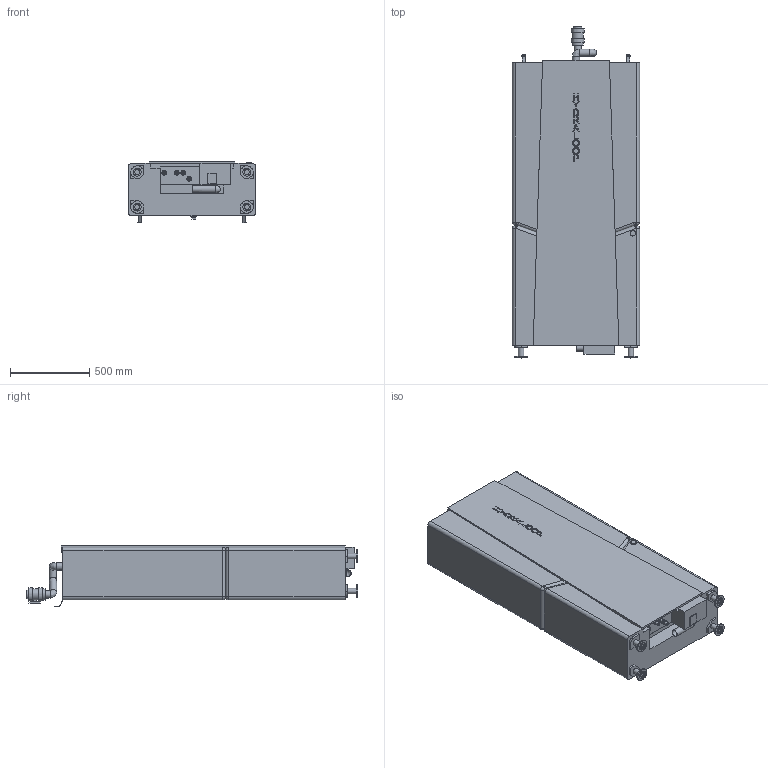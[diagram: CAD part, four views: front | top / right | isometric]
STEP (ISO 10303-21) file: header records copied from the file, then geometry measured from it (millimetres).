
FILE_DESCRIPTION(/* description */ (''),/* implementation_level */ '2;1');
FILE_NAME(/* name */ 'C:\Users\PWillering\Hydraloop Dropbox\05 R & D\01 MECHANICAL ENGINEERING\ENGINEERING WORKSPACE\CAD LIBRARY RELEASED PRODUCTS\H300 V2.1\Simplified H300 Collection 2025 STD.stp',/* time_stamp */ '2025-04-25T16:04:20+02:00',/* author */ ('PWillering'),/* organization */ (''),/* preprocessor_version */ 'ST-DEVELOPER v18.1',/* originating_system */ 'Autodesk Inventor 2022',/* authorisation */ '');
FILE_SCHEMA (('AUTOMOTIVE_DESIGN { 1 0 10303 214 3 1 1 }'));
Length unit declared in the file: millimetre
Products named in the file (1): 22-11-2024 BIM Model H300
Bounding box: 800 x 2089.19 x 384.17 mm (x, y, z)
Volume: 473982401.4 mm3; surface area: 5251680.6 mm2
Topology: 5 solids, 9 shells, 472 faces, 1118 edges, 718 vertices
Faces by surface type: plane 327, cylinder 85, bspline 50, sphere 8, torus 2
Full cylindrical faces by diameter (mm): 6.5 x2, 14 x8, 20 x4, 30 x8, 31 x4, 34 x5, 40 x2, 40.2 x1, 44 x2, 45 x6, 50 x4, 53 x1, 70 x2, 79 x4, 81.6 x2
Entity records: 13836 total; most frequent: CARTESIAN_POINT 3123, ORIENTED_EDGE 2204, DIRECTION 2044, EDGE_CURVE 1102, LINE 806, VECTOR 806, VERTEX_POINT 718, AXIS2_PLACEMENT_3D 619
